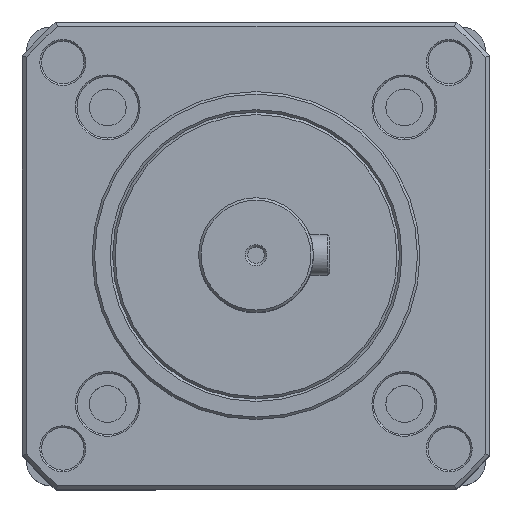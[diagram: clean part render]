
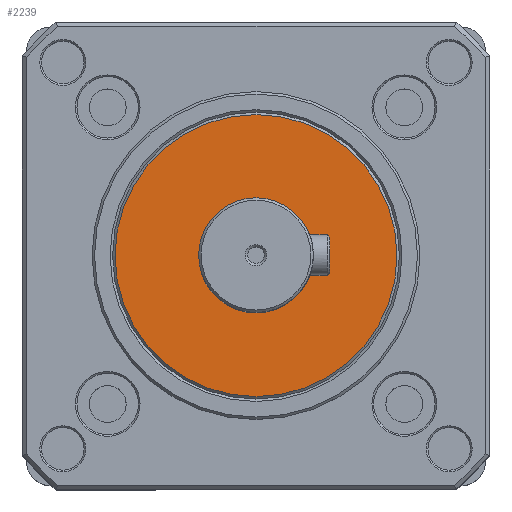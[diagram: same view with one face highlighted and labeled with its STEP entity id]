
A CAD part, top view. The second image highlights one B-rep face of the part: STEP entity #2239.
In plain terms, the highlighted planar face has unit normal (0, 0, 1).
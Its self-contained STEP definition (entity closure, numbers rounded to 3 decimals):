
#93 = DIRECTION ( 'NONE',  ( 1., 0., 0. ) ) ;
#384 = CIRCLE ( 'NONE', #4600, 17.2 ) ;
#563 = FACE_BOUND ( 'NONE', #1887, .T. ) ;
#842 = CARTESIAN_POINT ( 'NONE',  ( 0., 0., 21. ) ) ;
#1022 = VERTEX_POINT ( 'NONE', #7291 ) ;
#1125 = DIRECTION ( 'NONE',  ( 0., 0., 1. ) ) ;
#1740 = VERTEX_POINT ( 'NONE', #2841 ) ;
#1887 = EDGE_LOOP ( 'NONE', ( #4135 ) ) ;
#1924 = EDGE_LOOP ( 'NONE', ( #2059 ) ) ;
#2059 = ORIENTED_EDGE ( 'NONE', *, *, #2321, .T. ) ;
#2239 = ADVANCED_FACE ( 'NONE', ( #3387, #563 ), #7305, .T. ) ;
#2321 = EDGE_CURVE ( 'NONE', #1740, #1740, #384, .T. ) ;
#2356 = AXIS2_PLACEMENT_3D ( 'NONE', #3924, #1125, #5051 ) ;
#2816 = EDGE_CURVE ( 'NONE', #1022, #1022, #5387, .T. ) ;
#2841 = CARTESIAN_POINT ( 'NONE',  ( 17.2, 0., 21. ) ) ;
#3110 = AXIS2_PLACEMENT_3D ( 'NONE', #842, #6419, #4711 ) ;
#3387 = FACE_OUTER_BOUND ( 'NONE', #1924, .T. ) ;
#3924 = CARTESIAN_POINT ( 'NONE',  ( 0., 0., 21. ) ) ;
#4135 = ORIENTED_EDGE ( 'NONE', *, *, #2816, .F. ) ;
#4600 = AXIS2_PLACEMENT_3D ( 'NONE', #6854, #6837, #93 ) ;
#4711 = DIRECTION ( 'NONE',  ( 1., 0., 0. ) ) ;
#5051 = DIRECTION ( 'NONE',  ( 1., 0., 0. ) ) ;
#5387 = CIRCLE ( 'NONE', #3110, 7. ) ;
#6419 = DIRECTION ( 'NONE',  ( 0., 0., 1. ) ) ;
#6837 = DIRECTION ( 'NONE',  ( 0., 0., 1. ) ) ;
#6854 = CARTESIAN_POINT ( 'NONE',  ( 0., 0., 21. ) ) ;
#7291 = CARTESIAN_POINT ( 'NONE',  ( 7., 0., 21. ) ) ;
#7305 = PLANE ( 'NONE',  #2356 ) ;
